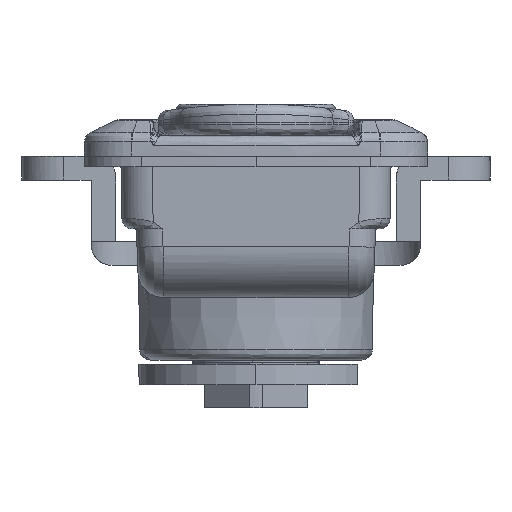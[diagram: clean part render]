
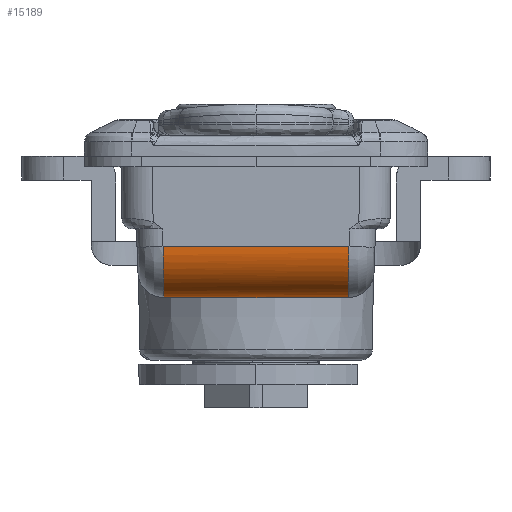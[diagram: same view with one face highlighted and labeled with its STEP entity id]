
A CAD part, left-side view. The second image highlights one B-rep face of the part: STEP entity #15189.
In plain terms, the highlighted cylindrical face has radius 5 mm (diameter 10 mm), a partial arc.
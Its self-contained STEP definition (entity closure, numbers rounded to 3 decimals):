
#4643 = CARTESIAN_POINT ( 'NONE',  ( -98.349, -8.855, 8.9 ) ) ;
#4653 = CARTESIAN_POINT ( 'NONE',  ( -98.349, 8.855, 8.9 ) ) ;
#4779 = CARTESIAN_POINT ( 'NONE',  ( -103.348, 8.941, 13.813 ) ) ;
#5287 = CARTESIAN_POINT ( 'NONE',  ( -103.348, -8.941, 13.813 ) ) ;
#5496 = ORIENTED_EDGE ( 'NONE', *, *, #15319, .T. ) ;
#5498 = ORIENTED_EDGE ( 'NONE', *, *, #15320, .T. ) ;
#5500 = ORIENTED_EDGE ( 'NONE', *, *, #15404, .T. ) ;
#5502 = ORIENTED_EDGE ( 'NONE', *, *, #15318, .T. ) ;
#8890 = VERTEX_POINT ( 'NONE', #4643 ) ;
#8898 = VERTEX_POINT ( 'NONE', #4653 ) ;
#9015 = VERTEX_POINT ( 'NONE', #4779 ) ;
#9490 = VERTEX_POINT ( 'NONE', #5287 ) ;
#13865 = EDGE_LOOP ( 'NONE', ( #5496, #5498, #5500, #5502 ) ) ;
#15189 = ADVANCED_FACE ( 'NONE', ( #19405 ), #19523, .T. ) ;
#15318 = EDGE_CURVE ( 'NONE', #9015, #8898, #33557, .T. ) ;
#15319 = EDGE_CURVE ( 'NONE', #8898, #8890, #33116, .T. ) ;
#15320 = EDGE_CURVE ( 'NONE', #8890, #9490, #33558, .T. ) ;
#15404 = EDGE_CURVE ( 'NONE', #9490, #9015, #33980, .T. ) ;
#19405 = FACE_OUTER_BOUND ( 'NONE', #13865, .T. ) ;
#19523 = CYLINDRICAL_SURFACE ( 'NONE', #54556, 5. ) ;
#19526 = CARTESIAN_POINT ( 'NONE',  ( -98.349, 0., 13.9 ) ) ;
#19555 = DIRECTION ( 'NONE',  ( 0., 1., 0. ) ) ;
#19557 = DIRECTION ( 'NONE',  ( 0., 0., 1. ) ) ;
#31907 = VECTOR ( 'NONE', #33140, 1000. ) ;
#31975 = VECTOR ( 'NONE', #33982, 1000. ) ;
#33109 = CARTESIAN_POINT ( 'NONE',  ( -103.348, 8.941, 13.813 ) ) ;
#33110 = CARTESIAN_POINT ( 'NONE',  ( -103.341, 8.934, 13.391 ) ) ;
#33115 = CARTESIAN_POINT ( 'NONE',  ( -98.349, -8.855, 8.9 ) ) ;
#33116 = LINE ( 'NONE', #33139, #31907 ) ;
#33117 = CARTESIAN_POINT ( 'NONE',  ( -98.962, -8.855, 8.9 ) ) ;
#33118 = CARTESIAN_POINT ( 'NONE',  ( -103.281, 8.927, 12.995 ) ) ;
#33119 = CARTESIAN_POINT ( 'NONE',  ( -103.092, 8.914, 12.273 ) ) ;
#33120 = CARTESIAN_POINT ( 'NONE',  ( -102.964, 8.909, 11.948 ) ) ;
#33121 = CARTESIAN_POINT ( 'NONE',  ( -102.673, 8.899, 11.369 ) ) ;
#33122 = CARTESIAN_POINT ( 'NONE',  ( -102.512, 8.894, 11.116 ) ) ;
#33123 = CARTESIAN_POINT ( 'NONE',  ( -102.264, 8.888, 10.787 ) ) ;
#33124 = CARTESIAN_POINT ( 'NONE',  ( -102.181, 8.887, 10.686 ) ) ;
#33125 = CARTESIAN_POINT ( 'NONE',  ( -102.057, 8.884, 10.545 ) ) ;
#33126 = CARTESIAN_POINT ( 'NONE',  ( -102.016, 8.883, 10.5 ) ) ;
#33127 = CARTESIAN_POINT ( 'NONE',  ( -101.955, 8.882, 10.436 ) ) ;
#33128 = CARTESIAN_POINT ( 'NONE',  ( -101.924, 8.882, 10.404 ) ) ;
#33129 = CARTESIAN_POINT ( 'NONE',  ( -101.889, 8.881, 10.369 ) ) ;
#33130 = CARTESIAN_POINT ( 'NONE',  ( -101.871, 8.881, 10.351 ) ) ;
#33131 = CARTESIAN_POINT ( 'NONE',  ( -101.864, 8.881, 10.344 ) ) ;
#33132 = CARTESIAN_POINT ( 'NONE',  ( -101.859, 8.88, 10.339 ) ) ;
#33133 = CARTESIAN_POINT ( 'NONE',  ( -101.857, 8.88, 10.337 ) ) ;
#33134 = CARTESIAN_POINT ( 'NONE',  ( -101.367, 8.872, 9.856 ) ) ;
#33135 = CARTESIAN_POINT ( 'NONE',  ( -100.796, 8.866, 9.492 ) ) ;
#33136 = CARTESIAN_POINT ( 'NONE',  ( -99.593, 8.857, 9.014 ) ) ;
#33137 = CARTESIAN_POINT ( 'NONE',  ( -98.962, 8.855, 8.9 ) ) ;
#33138 = CARTESIAN_POINT ( 'NONE',  ( -98.349, 8.855, 8.9 ) ) ;
#33139 = CARTESIAN_POINT ( 'NONE',  ( -98.349, 0., 8.9 ) ) ;
#33140 = DIRECTION ( 'NONE',  ( 0., -1., 0. ) ) ;
#33142 = CARTESIAN_POINT ( 'NONE',  ( -99.593, -8.857, 9.014 ) ) ;
#33143 = CARTESIAN_POINT ( 'NONE',  ( -100.495, -8.864, 9.372 ) ) ;
#33144 = CARTESIAN_POINT ( 'NONE',  ( -100.788, -8.866, 9.523 ) ) ;
#33145 = CARTESIAN_POINT ( 'NONE',  ( -101.207, -8.871, 9.794 ) ) ;
#33146 = CARTESIAN_POINT ( 'NONE',  ( -101.342, -8.873, 9.891 ) ) ;
#33147 = CARTESIAN_POINT ( 'NONE',  ( -101.539, -8.875, 10.049 ) ) ;
#33148 = CARTESIAN_POINT ( 'NONE',  ( -101.636, -8.877, 10.131 ) ) ;
#33149 = CARTESIAN_POINT ( 'NONE',  ( -101.746, -8.879, 10.231 ) ) ;
#33150 = CARTESIAN_POINT ( 'NONE',  ( -101.8, -8.879, 10.282 ) ) ;
#33151 = CARTESIAN_POINT ( 'NONE',  ( -101.827, -8.88, 10.308 ) ) ;
#33152 = CARTESIAN_POINT ( 'NONE',  ( -101.838, -8.88, 10.319 ) ) ;
#33153 = CARTESIAN_POINT ( 'NONE',  ( -101.846, -8.88, 10.326 ) ) ;
#33154 = CARTESIAN_POINT ( 'NONE',  ( -101.851, -8.88, 10.331 ) ) ;
#33155 = CARTESIAN_POINT ( 'NONE',  ( -102.014, -8.883, 10.492 ) ) ;
#33156 = CARTESIAN_POINT ( 'NONE',  ( -102.182, -8.886, 10.678 ) ) ;
#33157 = CARTESIAN_POINT ( 'NONE',  ( -102.512, -8.894, 11.116 ) ) ;
#33158 = CARTESIAN_POINT ( 'NONE',  ( -102.673, -8.899, 11.369 ) ) ;
#33159 = CARTESIAN_POINT ( 'NONE',  ( -102.964, -8.909, 11.948 ) ) ;
#33160 = CARTESIAN_POINT ( 'NONE',  ( -103.092, -8.914, 12.273 ) ) ;
#33161 = CARTESIAN_POINT ( 'NONE',  ( -103.281, -8.927, 12.995 ) ) ;
#33162 = CARTESIAN_POINT ( 'NONE',  ( -103.341, -8.934, 13.391 ) ) ;
#33163 = CARTESIAN_POINT ( 'NONE',  ( -103.348, -8.941, 13.813 ) ) ;
#33557 = B_SPLINE_CURVE_WITH_KNOTS ( 'NONE', 3,
 ( #33109, #33110, #33118, #33119, #33120, #33121, #33122, #33123, #33124, #33125, #33126, #33127, #33128, #33129, #33130, #33131, #33132, #33133, #33134, #33135, #33136, #33137, #33138 ),
 .UNSPECIFIED., .F., .F.,
 ( 4, 2, 2, 2, 2, 2, 1, 1, 1, 2, 2, 2, 4 ),
 ( 0., 0.125, 0.25, 0.375, 0.438, 0.469, 0.484, 0.492, 0.496, 0.498, 0.5, 0.75, 1. ),
 .UNSPECIFIED. ) ;
#33558 = B_SPLINE_CURVE_WITH_KNOTS ( 'NONE', 3,
 ( #33115, #33117, #33142, #33143, #33144, #33145, #33146, #33147, #33148, #33149, #33150, #33151, #33152, #33153, #33154, #33155, #33156, #33157, #33158, #33159, #33160, #33161, #33162, #33163 ),
 .UNSPECIFIED., .F., .F.,
 ( 4, 2, 2, 2, 1, 1, 1, 1, 2, 2, 2, 2, 2, 4 ),
 ( 0., 0.25, 0.375, 0.437, 0.469, 0.484, 0.492, 0.496, 0.498, 0.5, 0.625, 0.75, 0.875, 1. ),
 .UNSPECIFIED. ) ;
#33980 = LINE ( 'NONE', #33981, #31975 ) ;
#33981 = CARTESIAN_POINT ( 'NONE',  ( -103.348, 0., 13.813 ) ) ;
#33982 = DIRECTION ( 'NONE',  ( 0., 1., 0. ) ) ;
#54556 = AXIS2_PLACEMENT_3D ( 'NONE', #19526, #19555, #19557 ) ;
